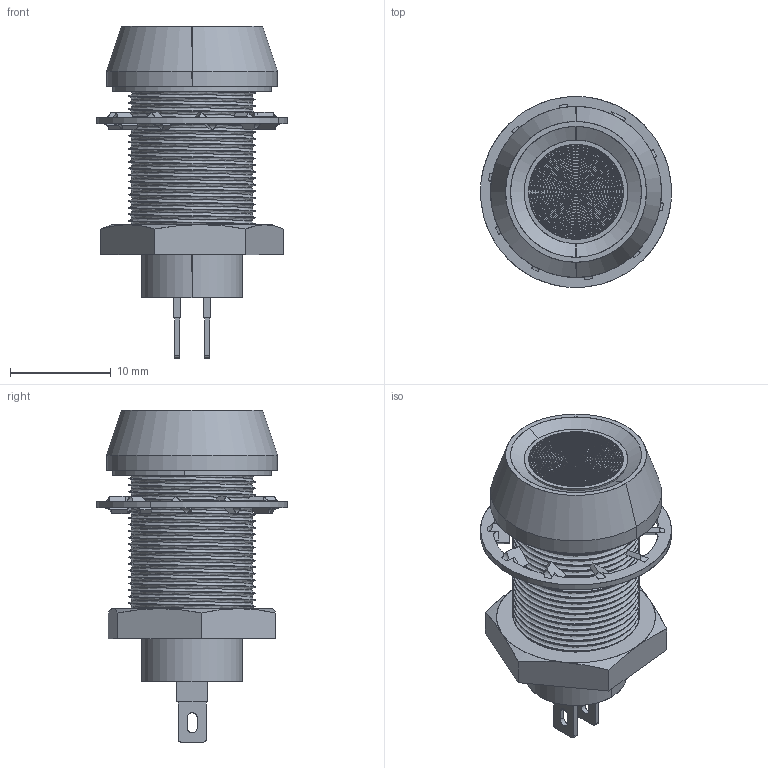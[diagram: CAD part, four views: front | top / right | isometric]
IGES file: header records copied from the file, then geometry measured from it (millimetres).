
Start section: SolidWorks IGES file using analytic representation for surfaces
Global section: file name: G:\Marl\DESIGN\Paul Robson\STEP-IGES FILES\512 Series\512 Series.IGS; native system: SolidWorks 2016; preprocessor: SolidWorks 2016; author: Paulr; date: 160804.122034; units: millimetre
Bounding box: 18.98 x 18.98 x 33 mm (x, y, z)
Surface area: 4278.1 mm2 (no closed solid volume)
Topology: 0 solids, 0 shells, 526 faces, 6651 edges, 6651 vertices
Faces by surface type: bspline 331, revolution 195
